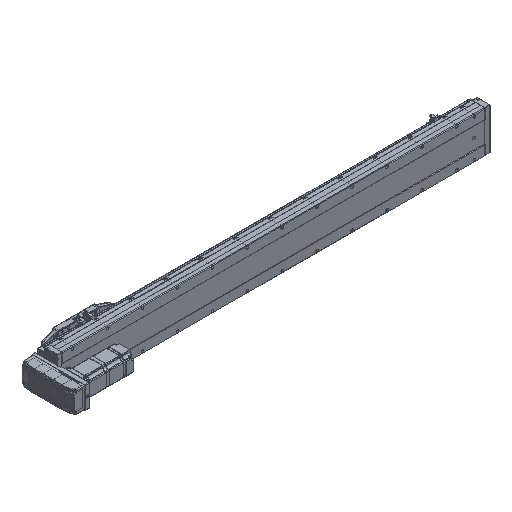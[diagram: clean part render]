
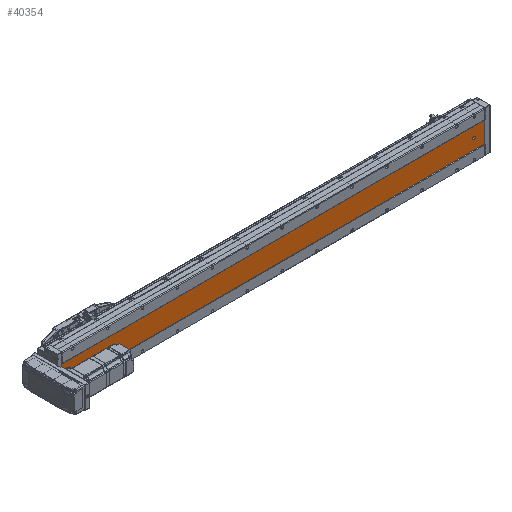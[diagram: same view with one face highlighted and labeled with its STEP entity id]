
A CAD part, isometric view. The second image highlights one B-rep face of the part: STEP entity #40354.
In plain terms, the highlighted planar face has unit normal (0, -1, 0).
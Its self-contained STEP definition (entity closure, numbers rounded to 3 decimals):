
#65 = DIRECTION ( 'NONE',  ( 0., 0., 1. ) ) ;
#161 = DIRECTION ( 'NONE',  ( 0., 1., 0. ) ) ;
#735 = DIRECTION ( 'NONE',  ( 0., 0., 1. ) ) ;
#1359 = ORIENTED_EDGE ( 'NONE', *, *, #5053, .T. ) ;
#1976 = CIRCLE ( 'NONE', #51457, 3.5 ) ;
#2227 = CARTESIAN_POINT ( 'NONE',  ( -39.892, -52.848, 1177.5 ) ) ;
#2291 = EDGE_CURVE ( 'NONE', #74274, #81640, #9572, .T. ) ;
#3608 = CIRCLE ( 'NONE', #30399, 3.5 ) ;
#3842 = DIRECTION ( 'NONE',  ( 0., 0., -1. ) ) ;
#4425 = AXIS2_PLACEMENT_3D ( 'NONE', #51565, #32547, #65478 ) ;
#4556 = CARTESIAN_POINT ( 'NONE',  ( -36.392, -52.848, 30. ) ) ;
#5053 = EDGE_CURVE ( 'NONE', #51742, #80064, #1976, .T. ) ;
#5546 = EDGE_LOOP ( 'NONE', ( #69801, #18534 ) ) ;
#5681 = DIRECTION ( 'NONE',  ( 0., 0., 1. ) ) ;
#6789 = CARTESIAN_POINT ( 'NONE',  ( -39.892, -52.848, 1081. ) ) ;
#7174 = FACE_BOUND ( 'NONE', #61509, .T. ) ;
#7645 = CARTESIAN_POINT ( 'NONE',  ( -39.892, -52.848, 1181. ) ) ;
#8048 = LINE ( 'NONE', #53707, #30565 ) ;
#9572 = LINE ( 'NONE', #20339, #38139 ) ;
#10938 = DIRECTION ( 'NONE',  ( 0., 0., 1. ) ) ;
#11715 = CARTESIAN_POINT ( 'NONE',  ( -39.892, -52.848, 1184.5 ) ) ;
#12629 = AXIS2_PLACEMENT_3D ( 'NONE', #7645, #13913, #13631 ) ;
#12716 = EDGE_CURVE ( 'NONE', #34178, #42191, #8048, .T. ) ;
#12963 = DIRECTION ( 'NONE',  ( 0., 0., -1. ) ) ;
#13192 = CARTESIAN_POINT ( 'NONE',  ( -69.892, -52.848, 0. ) ) ;
#13631 = DIRECTION ( 'NONE',  ( 0., 0., 1. ) ) ;
#13913 = DIRECTION ( 'NONE',  ( 0., 1., 0. ) ) ;
#14638 = AXIS2_PLACEMENT_3D ( 'NONE', #25219, #63039, #10938 ) ;
#18534 = ORIENTED_EDGE ( 'NONE', *, *, #46778, .T. ) ;
#18809 = DIRECTION ( 'NONE',  ( 0., 1., 0. ) ) ;
#20339 = CARTESIAN_POINT ( 'NONE',  ( -69.892, -52.848, 1211. ) ) ;
#21364 = DIRECTION ( 'NONE',  ( 0., 0., 1. ) ) ;
#21508 = VERTEX_POINT ( 'NONE', #59829 ) ;
#21687 = CIRCLE ( 'NONE', #31025, 3.5 ) ;
#21824 = VERTEX_POINT ( 'NONE', #38818 ) ;
#22097 = DIRECTION ( 'NONE',  ( 0., 1., 0. ) ) ;
#22234 = ORIENTED_EDGE ( 'NONE', *, *, #2291, .T. ) ;
#22426 = VERTEX_POINT ( 'NONE', #2227 ) ;
#22702 = CARTESIAN_POINT ( 'NONE',  ( -9.892, -52.848, 1211. ) ) ;
#23360 = VERTEX_POINT ( 'NONE', #11715 ) ;
#24352 = DIRECTION ( 'NONE',  ( 0., 1., 0. ) ) ;
#25219 = CARTESIAN_POINT ( 'NONE',  ( -39.892, -52.848, 32. ) ) ;
#26592 = DIRECTION ( 'NONE',  ( 0., 0., 1. ) ) ;
#28578 = DIRECTION ( 'NONE',  ( 1., 0., 0. ) ) ;
#29053 = LINE ( 'NONE', #65231, #44268 ) ;
#30101 = EDGE_LOOP ( 'NONE', ( #55073, #83139 ) ) ;
#30399 = AXIS2_PLACEMENT_3D ( 'NONE', #6789, #18809, #5681 ) ;
#30483 = ORIENTED_EDGE ( 'NONE', *, *, #68440, .F. ) ;
#30565 = VECTOR ( 'NONE', #21364, 1000. ) ;
#31025 = AXIS2_PLACEMENT_3D ( 'NONE', #63264, #24352, #26592 ) ;
#31983 = CIRCLE ( 'NONE', #66463, 3.5 ) ;
#32547 = DIRECTION ( 'NONE',  ( 0., 1., 0. ) ) ;
#32876 = DIRECTION ( 'NONE',  ( 1., 0., 0. ) ) ;
#33930 = CARTESIAN_POINT ( 'NONE',  ( -43.392, -52.848, 32. ) ) ;
#34178 = VERTEX_POINT ( 'NONE', #51310 ) ;
#34195 = VECTOR ( 'NONE', #3842, 1000. ) ;
#34841 = EDGE_CURVE ( 'NONE', #22426, #23360, #74091, .T. ) ;
#37025 = VERTEX_POINT ( 'NONE', #43971 ) ;
#38139 = VECTOR ( 'NONE', #59814, 1000. ) ;
#38291 = LINE ( 'NONE', #22702, #34195 ) ;
#38818 = CARTESIAN_POINT ( 'NONE',  ( -39.892, -52.848, 1084.5 ) ) ;
#40354 = ADVANCED_FACE ( 'NONE', ( #7174, #58035, #80450, #63185 ), #52178, .F. ) ;
#42191 = VERTEX_POINT ( 'NONE', #33930 ) ;
#43971 = CARTESIAN_POINT ( 'NONE',  ( -9.892, -52.848, 1211. ) ) ;
#44268 = VECTOR ( 'NONE', #32876, 1000. ) ;
#45267 = VECTOR ( 'NONE', #28578, 1000. ) ;
#45415 = EDGE_CURVE ( 'NONE', #58314, #21824, #3608, .T. ) ;
#46778 = EDGE_CURVE ( 'NONE', #23360, #22426, #21687, .T. ) ;
#47056 = LINE ( 'NONE', #65015, #79544 ) ;
#49036 = CARTESIAN_POINT ( 'NONE',  ( -39.892, -52.848, 30. ) ) ;
#49298 = ORIENTED_EDGE ( 'NONE', *, *, #64783, .T. ) ;
#50188 = VERTEX_POINT ( 'NONE', #76085 ) ;
#50663 = AXIS2_PLACEMENT_3D ( 'NONE', #58429, #161, #735 ) ;
#51188 = EDGE_CURVE ( 'NONE', #50188, #51742, #47056, .T. ) ;
#51310 = CARTESIAN_POINT ( 'NONE',  ( -43.392, -52.848, 30. ) ) ;
#51457 = AXIS2_PLACEMENT_3D ( 'NONE', #49036, #22097, #54406 ) ;
#51565 = CARTESIAN_POINT ( 'NONE',  ( -39.892, -52.848, 30. ) ) ;
#51742 = VERTEX_POINT ( 'NONE', #4556 ) ;
#52178 = PLANE ( 'NONE',  #50663 ) ;
#52238 = ORIENTED_EDGE ( 'NONE', *, *, #64683, .F. ) ;
#53019 = ORIENTED_EDGE ( 'NONE', *, *, #51188, .T. ) ;
#53707 = CARTESIAN_POINT ( 'NONE',  ( -43.392, -52.848, 1211. ) ) ;
#54406 = DIRECTION ( 'NONE',  ( 0., 0., 1. ) ) ;
#55073 = ORIENTED_EDGE ( 'NONE', *, *, #45415, .T. ) ;
#56523 = EDGE_LOOP ( 'NONE', ( #49298, #30483, #52238, #22234 ) ) ;
#57585 = EDGE_CURVE ( 'NONE', #42191, #50188, #80755, .T. ) ;
#58035 = FACE_BOUND ( 'NONE', #30101, .T. ) ;
#58090 = EDGE_CURVE ( 'NONE', #21824, #58314, #31983, .T. ) ;
#58314 = VERTEX_POINT ( 'NONE', #68221 ) ;
#58429 = CARTESIAN_POINT ( 'NONE',  ( -69.892, -52.848, 1211. ) ) ;
#59814 = DIRECTION ( 'NONE',  ( 0., 0., -1. ) ) ;
#59828 = EDGE_CURVE ( 'NONE', #80064, #34178, #71311, .T. ) ;
#59829 = CARTESIAN_POINT ( 'NONE',  ( -9.892, -52.848, 0. ) ) ;
#60664 = CARTESIAN_POINT ( 'NONE',  ( -69.892, -52.848, 0. ) ) ;
#61509 = EDGE_LOOP ( 'NONE', ( #62697, #53019, #1359, #65978, #83854 ) ) ;
#62697 = ORIENTED_EDGE ( 'NONE', *, *, #57585, .T. ) ;
#63039 = DIRECTION ( 'NONE',  ( 0., 1., 0. ) ) ;
#63185 = FACE_OUTER_BOUND ( 'NONE', #56523, .T. ) ;
#63264 = CARTESIAN_POINT ( 'NONE',  ( -39.892, -52.848, 1181. ) ) ;
#64683 = EDGE_CURVE ( 'NONE', #74274, #37025, #29053, .T. ) ;
#64783 = EDGE_CURVE ( 'NONE', #81640, #21508, #73667, .T. ) ;
#65015 = CARTESIAN_POINT ( 'NONE',  ( -36.392, -52.848, 1211. ) ) ;
#65231 = CARTESIAN_POINT ( 'NONE',  ( -69.892, -52.848, 1211. ) ) ;
#65440 = CARTESIAN_POINT ( 'NONE',  ( -39.892, -52.848, 1081. ) ) ;
#65478 = DIRECTION ( 'NONE',  ( 0., 0., 1. ) ) ;
#65708 = DIRECTION ( 'NONE',  ( 0., 1., 0. ) ) ;
#65978 = ORIENTED_EDGE ( 'NONE', *, *, #59828, .T. ) ;
#66463 = AXIS2_PLACEMENT_3D ( 'NONE', #65440, #65708, #65 ) ;
#68221 = CARTESIAN_POINT ( 'NONE',  ( -39.892, -52.848, 1077.5 ) ) ;
#68440 = EDGE_CURVE ( 'NONE', #37025, #21508, #38291, .T. ) ;
#69801 = ORIENTED_EDGE ( 'NONE', *, *, #34841, .T. ) ;
#71311 = CIRCLE ( 'NONE', #4425, 3.5 ) ;
#71742 = CARTESIAN_POINT ( 'NONE',  ( -39.892, -52.848, 26.5 ) ) ;
#73667 = LINE ( 'NONE', #60664, #45267 ) ;
#74091 = CIRCLE ( 'NONE', #12629, 3.5 ) ;
#74274 = VERTEX_POINT ( 'NONE', #80908 ) ;
#76085 = CARTESIAN_POINT ( 'NONE',  ( -36.392, -52.848, 32. ) ) ;
#79544 = VECTOR ( 'NONE', #12963, 1000. ) ;
#80064 = VERTEX_POINT ( 'NONE', #71742 ) ;
#80450 = FACE_BOUND ( 'NONE', #5546, .T. ) ;
#80755 = CIRCLE ( 'NONE', #14638, 3.5 ) ;
#80908 = CARTESIAN_POINT ( 'NONE',  ( -69.892, -52.848, 1211. ) ) ;
#81640 = VERTEX_POINT ( 'NONE', #13192 ) ;
#83139 = ORIENTED_EDGE ( 'NONE', *, *, #58090, .T. ) ;
#83854 = ORIENTED_EDGE ( 'NONE', *, *, #12716, .T. ) ;
